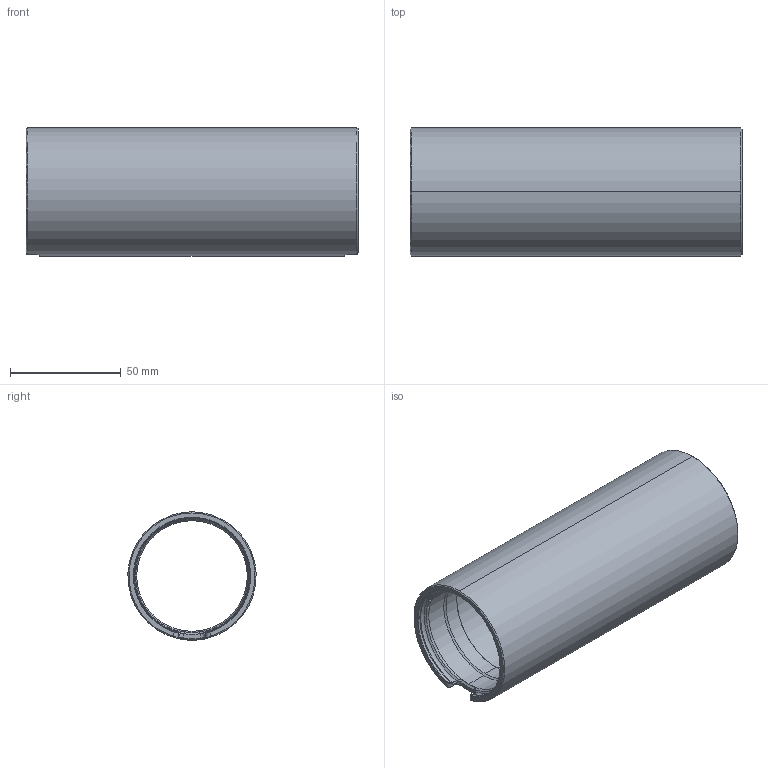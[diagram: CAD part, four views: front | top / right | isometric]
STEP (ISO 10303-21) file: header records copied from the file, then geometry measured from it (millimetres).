
FILE_DESCRIPTION (( 'STEP AP214' ), '1' );
FILE_NAME ('BR-100534-150_RevB.STEP', '2024-09-16T22:44:24', ( '' ), ( '' ), 'SwSTEP 2.0', 'SolidWorks 2024', '' );
FILE_SCHEMA (( 'AUTOMOTIVE_DESIGN' ));
Length unit declared in the file: millimetre
Products named in the file (1): BR-100534-150_RevB
Bounding box: 150 x 57.96 x 58 mm (x, y, z)
Volume: 90118.5 mm3; surface area: 52745.9 mm2
Topology: 1 solids, 1 shells, 112 faces, 274 edges, 166 vertices
Faces by surface type: bspline 32, cylinder 28, cone 24, plane 16, torus 12
Entity records: 7010 total; most frequent: CARTESIAN_POINT 4660, ORIENTED_EDGE 548, DIRECTION 390, EDGE_CURVE 274, AXIS2_PLACEMENT_3D 167, VERTEX_POINT 166, B_SPLINE_CURVE_WITH_KNOTS 128, EDGE_LOOP 116
